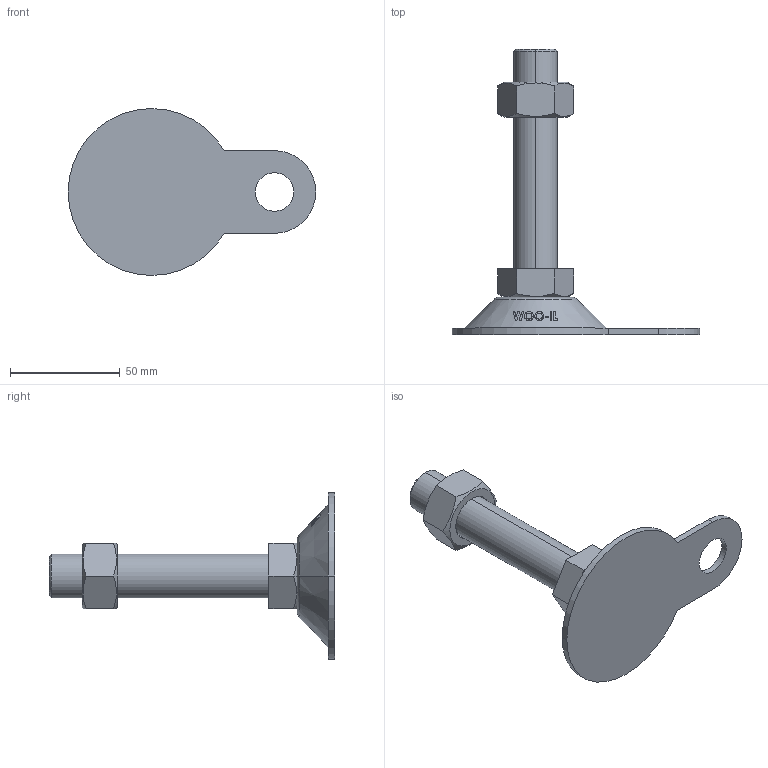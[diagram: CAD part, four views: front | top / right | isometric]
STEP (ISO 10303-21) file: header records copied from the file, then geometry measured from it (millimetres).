
FILE_DESCRIPTION (( 'STEP AP214' ), '1' );
FILE_NAME ('ABL76-M20-100.step', '2021-02-05T04:20:35', ( '' ), ( '' ), 'SwSTEP 2.0', 'SolidWorks 2019', '' );
FILE_SCHEMA (( 'AUTOMOTIVE_DESIGN' ));
Length unit declared in the file: millimetre
Products named in the file (2): ABL76-M20-100
Bounding box: 112.8 x 130 x 76 mm (x, y, z)
Volume: 94294 mm3; surface area: 24457.3 mm2
Topology: 2 solids, 2 shells, 128 faces, 329 edges, 216 vertices
Faces by surface type: plane 48, cylinder 38, cone 22, bspline 18, torus 2
Entity records: 5519 total; most frequent: CARTESIAN_POINT 2613, ORIENTED_EDGE 658, DIRECTION 473, EDGE_CURVE 329, VERTEX_POINT 216, AXIS2_PLACEMENT_3D 176, B_SPLINE_CURVE_WITH_KNOTS 144, EDGE_LOOP 143
